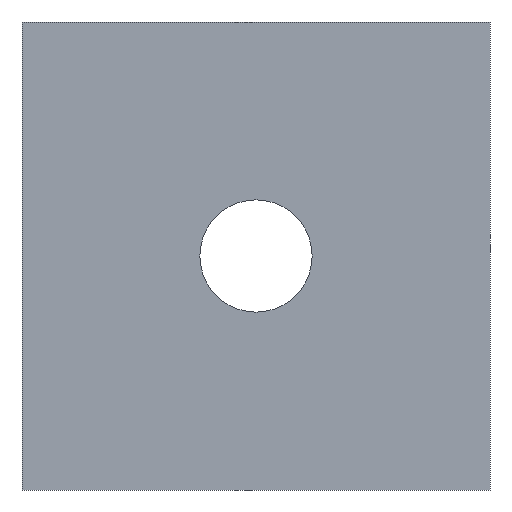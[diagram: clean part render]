
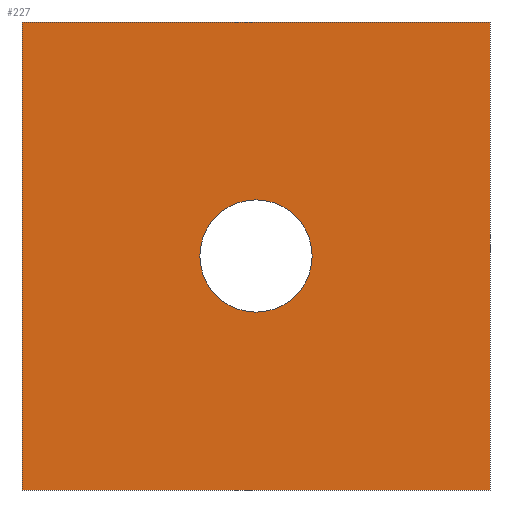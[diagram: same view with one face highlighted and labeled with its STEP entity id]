
A CAD part, front view. The second image highlights one B-rep face of the part: STEP entity #227.
In plain terms, the highlighted planar face has unit normal (0, -1, 0).
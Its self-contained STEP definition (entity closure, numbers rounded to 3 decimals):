
#9 = VERTEX_POINT ( 'NONE', #205 ) ;
#14 = EDGE_CURVE ( 'NONE', #131, #247, #220, .T. ) ;
#17 = CARTESIAN_POINT ( 'NONE',  ( -196., 0., -196. ) ) ;
#27 = FACE_BOUND ( 'NONE', #53, .T. ) ;
#41 = CARTESIAN_POINT ( 'NONE',  ( -196., 0., 196. ) ) ;
#42 = EDGE_CURVE ( 'NONE', #9, #78, #235, .T. ) ;
#43 = CARTESIAN_POINT ( 'NONE',  ( 0., 0., 0. ) ) ;
#47 = EDGE_LOOP ( 'NONE', ( #222, #95, #172, #113 ) ) ;
#49 = CARTESIAN_POINT ( 'NONE',  ( -196., 0., -196. ) ) ;
#53 = EDGE_LOOP ( 'NONE', ( #228, #147 ) ) ;
#55 = AXIS2_PLACEMENT_3D ( 'NONE', #191, #258, #132 ) ;
#58 = CARTESIAN_POINT ( 'NONE',  ( -196., 0., 196. ) ) ;
#61 = DIRECTION ( 'NONE',  ( 0., 0., 1. ) ) ;
#66 = PLANE ( 'NONE',  #55 ) ;
#72 = DIRECTION ( 'NONE',  ( 0., 0., 1. ) ) ;
#73 = LINE ( 'NONE', #58, #159 ) ;
#78 = VERTEX_POINT ( 'NONE', #17 ) ;
#86 = VECTOR ( 'NONE', #189, 1000. ) ;
#95 = ORIENTED_EDGE ( 'NONE', *, *, #169, .F. ) ;
#96 = AXIS2_PLACEMENT_3D ( 'NONE', #43, #135, #61 ) ;
#98 = CARTESIAN_POINT ( 'NONE',  ( 0., 0., 0. ) ) ;
#104 = VECTOR ( 'NONE', #125, 1000. ) ;
#108 = EDGE_CURVE ( 'NONE', #150, #9, #177, .T. ) ;
#113 = ORIENTED_EDGE ( 'NONE', *, *, #42, .F. ) ;
#117 = DIRECTION ( 'NONE',  ( 0., 1., 0. ) ) ;
#125 = DIRECTION ( 'NONE',  ( 0., 0., -1. ) ) ;
#130 = LINE ( 'NONE', #213, #86 ) ;
#131 = VERTEX_POINT ( 'NONE', #275 ) ;
#132 = DIRECTION ( 'NONE',  ( 0., 0., -1. ) ) ;
#135 = DIRECTION ( 'NONE',  ( 0., 1., 0. ) ) ;
#138 = CIRCLE ( 'NONE', #96, 47. ) ;
#139 = EDGE_CURVE ( 'NONE', #78, #176, #130, .T. ) ;
#140 = FACE_OUTER_BOUND ( 'NONE', #47, .T. ) ;
#147 = ORIENTED_EDGE ( 'NONE', *, *, #14, .T. ) ;
#150 = VERTEX_POINT ( 'NONE', #187 ) ;
#159 = VECTOR ( 'NONE', #249, 1000. ) ;
#162 = CARTESIAN_POINT ( 'NONE',  ( 196., 0., 196. ) ) ;
#169 = EDGE_CURVE ( 'NONE', #176, #150, #73, .T. ) ;
#172 = ORIENTED_EDGE ( 'NONE', *, *, #139, .F. ) ;
#176 = VERTEX_POINT ( 'NONE', #41 ) ;
#177 = LINE ( 'NONE', #162, #104 ) ;
#187 = CARTESIAN_POINT ( 'NONE',  ( 196., 0., 196. ) ) ;
#189 = DIRECTION ( 'NONE',  ( 0., 0., 1. ) ) ;
#191 = CARTESIAN_POINT ( 'NONE',  ( 0., 0., 0. ) ) ;
#199 = VECTOR ( 'NONE', #206, 1000. ) ;
#205 = CARTESIAN_POINT ( 'NONE',  ( 196., 0., -196. ) ) ;
#206 = DIRECTION ( 'NONE',  ( -1., 0., 0. ) ) ;
#210 = EDGE_CURVE ( 'NONE', #247, #131, #138, .T. ) ;
#213 = CARTESIAN_POINT ( 'NONE',  ( -196., 0., 196. ) ) ;
#220 = CIRCLE ( 'NONE', #244, 47. ) ;
#222 = ORIENTED_EDGE ( 'NONE', *, *, #108, .F. ) ;
#227 = ADVANCED_FACE ( 'NONE', ( #27, #140 ), #66, .T. ) ;
#228 = ORIENTED_EDGE ( 'NONE', *, *, #210, .T. ) ;
#235 = LINE ( 'NONE', #49, #199 ) ;
#239 = CARTESIAN_POINT ( 'NONE',  ( 0., 0., 47. ) ) ;
#244 = AXIS2_PLACEMENT_3D ( 'NONE', #98, #117, #72 ) ;
#247 = VERTEX_POINT ( 'NONE', #239 ) ;
#249 = DIRECTION ( 'NONE',  ( 1., 0., 0. ) ) ;
#258 = DIRECTION ( 'NONE',  ( 0., -1., 0. ) ) ;
#275 = CARTESIAN_POINT ( 'NONE',  ( 0., 0., -47. ) ) ;
